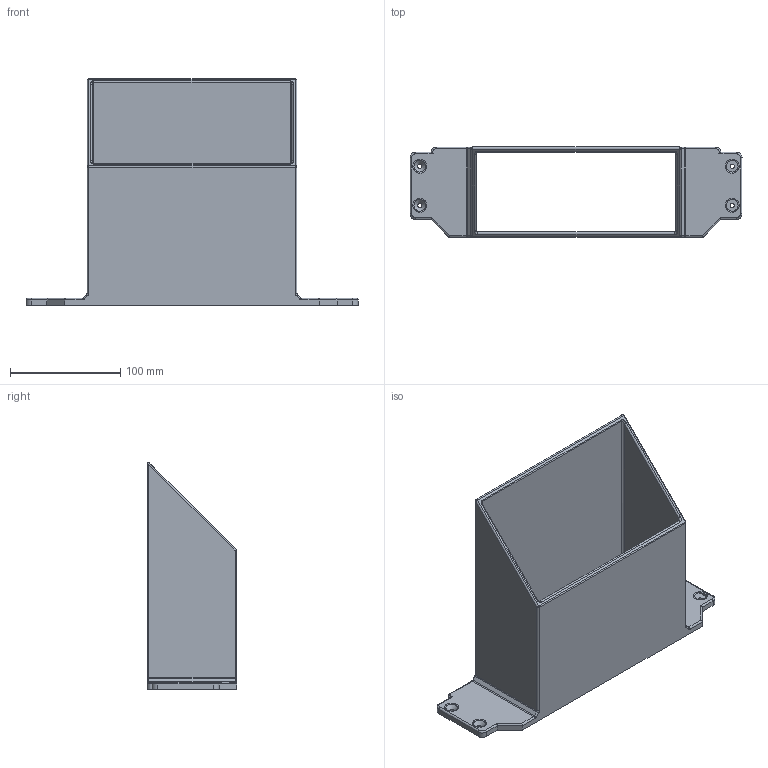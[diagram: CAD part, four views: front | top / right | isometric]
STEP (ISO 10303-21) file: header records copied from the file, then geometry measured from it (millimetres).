
FILE_DESCRIPTION(/* description */ (''),/* implementation_level */ '2;1');
FILE_NAME(/* name */ '2026_04_05_petesquared_poop_chute.step',/* time_stamp */ '2026-04-05T11:05:27-07:00',/* author */ (''),/* organization */ (''),/* preprocessor_version */ 'ST-DEVELOPER v20.1',/* originating_system */ 'Autodesk Translation Framework v14.24.0.0',/* authorisation */ '');
FILE_SCHEMA (('AUTOMOTIVE_DESIGN { 1 0 10303 214 3 1 1 }'));
Length unit declared in the file: inch
Products named in the file (4): 3d_printer_stand_v3_optimized; printer; printer_shelf; poop_bin_chute
Assembly tree (3 placements, depth 4):
  3d_printer_stand_v3_optimized
    printer
      printer_shelf
        poop_bin_chute
Bounding box: 301.24 x 81.66 x 205.61 mm (x, y, z)
Volume: 450926.7 mm3; surface area: 195603.8 mm2
Topology: 1 solids, 1 shells, 98 faces, 232 edges, 136 vertices
Faces by surface type: cylinder 46, plane 22, torus 18, cone 4, bspline 4, sphere 4
Full cylindrical faces by diameter (mm): 3.81 x4
Entity records: 3134 total; most frequent: CARTESIAN_POINT 656, DIRECTION 554, ORIENTED_EDGE 464, EDGE_CURVE 232, AXIS2_PLACEMENT_3D 222, VERTEX_POINT 136, LINE 110, VECTOR 110
